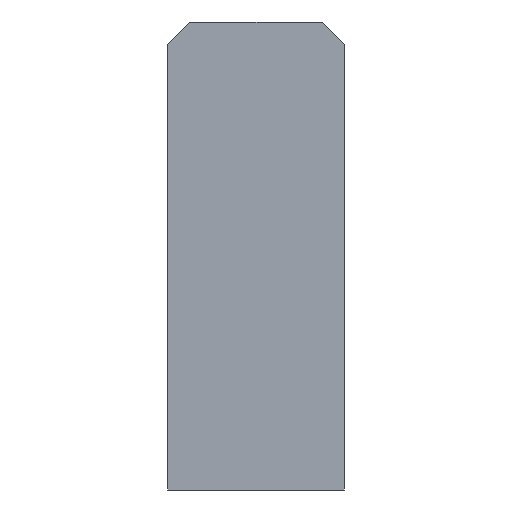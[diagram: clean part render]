
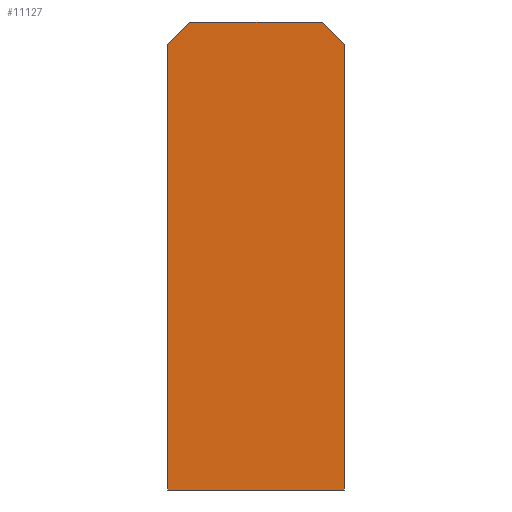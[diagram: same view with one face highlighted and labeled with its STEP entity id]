
A CAD part, left-side view. The second image highlights one B-rep face of the part: STEP entity #11127.
In plain terms, the highlighted planar face has unit normal (-1, 0, 0).
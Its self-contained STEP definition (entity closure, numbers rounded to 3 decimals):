
#381=LINE('',#40057,#702);
#385=LINE('',#40064,#706);
#391=LINE('',#40076,#712);
#393=LINE('',#40080,#714);
#394=LINE('',#40083,#715);
#396=LINE('',#40086,#717);
#702=VECTOR('',#11911,1.768);
#706=VECTOR('',#11917,7.5);
#712=VECTOR('',#11927,1.768);
#714=VECTOR('',#11931,25.25);
#715=VECTOR('',#11934,10.);
#717=VECTOR('',#11938,25.25);
#1002=PLANE('',#11420);
#1702=FACE_OUTER_BOUND('',#2471,.T.);
#2471=EDGE_LOOP('',(#8491,#8492,#8493,#8494,#8495,#8496));
#4342=VERTEX_POINT('',#40054);
#4343=VERTEX_POINT('',#40056);
#4345=VERTEX_POINT('',#40062);
#4349=VERTEX_POINT('',#40074);
#4350=VERTEX_POINT('',#40078);
#4351=VERTEX_POINT('',#40082);
#5758=EDGE_CURVE('',#4342,#4343,#381,.T.);
#5762=EDGE_CURVE('',#4345,#4342,#385,.T.);
#5768=EDGE_CURVE('',#4349,#4345,#391,.T.);
#5770=EDGE_CURVE('',#4350,#4349,#393,.T.);
#5771=EDGE_CURVE('',#4351,#4350,#394,.T.);
#5773=EDGE_CURVE('',#4343,#4351,#396,.T.);
#8491=ORIENTED_EDGE('',*,*,#5758,.F.);
#8492=ORIENTED_EDGE('',*,*,#5762,.F.);
#8493=ORIENTED_EDGE('',*,*,#5768,.F.);
#8494=ORIENTED_EDGE('',*,*,#5770,.F.);
#8495=ORIENTED_EDGE('',*,*,#5771,.F.);
#8496=ORIENTED_EDGE('',*,*,#5773,.F.);
#11127=ADVANCED_FACE('',(#1702),#1002,.F.);
#11420=AXIS2_PLACEMENT_3D('',#40087,#11939,#11940);
#11911=DIRECTION('',(0.,-0.707,-0.707));
#11917=DIRECTION('',(0.,-1.,0.));
#11927=DIRECTION('',(0.,-0.707,0.707));
#11931=DIRECTION('',(0.,0.,1.));
#11934=DIRECTION('',(0.,1.,0.));
#11938=DIRECTION('',(0.,0.,-1.));
#11939=DIRECTION('center_axis',(1.,0.,0.));
#11940=DIRECTION('ref_axis',(0.,-1.,0.));
#40054=CARTESIAN_POINT('',(-6.25,-3.75,0.));
#40056=CARTESIAN_POINT('',(-6.25,-5.,-1.25));
#40057=CARTESIAN_POINT('',(-6.25,-6.438,-2.688));
#40062=CARTESIAN_POINT('',(-6.25,3.75,0.));
#40064=CARTESIAN_POINT('',(-6.25,5.,0.));
#40074=CARTESIAN_POINT('',(-6.25,5.,-1.25));
#40076=CARTESIAN_POINT('',(-6.25,6.438,-2.688));
#40078=CARTESIAN_POINT('',(-6.25,5.,-26.5));
#40080=CARTESIAN_POINT('',(-6.25,5.,-26.5));
#40082=CARTESIAN_POINT('',(-6.25,-5.,-26.5));
#40083=CARTESIAN_POINT('',(-6.25,-5.,-26.5));
#40086=CARTESIAN_POINT('',(-6.25,-5.,0.));
#40087=CARTESIAN_POINT('Origin',(-6.25,0.,-13.25));
